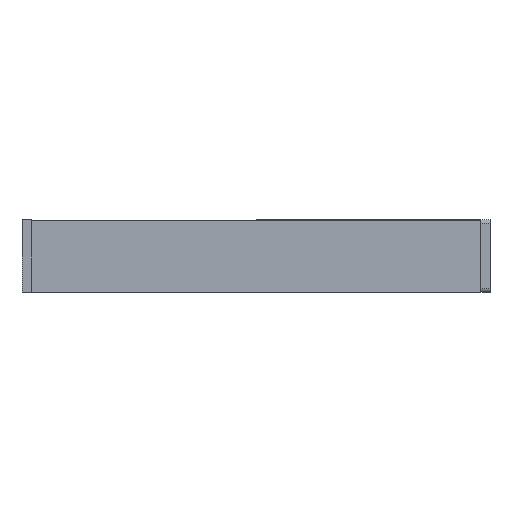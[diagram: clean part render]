
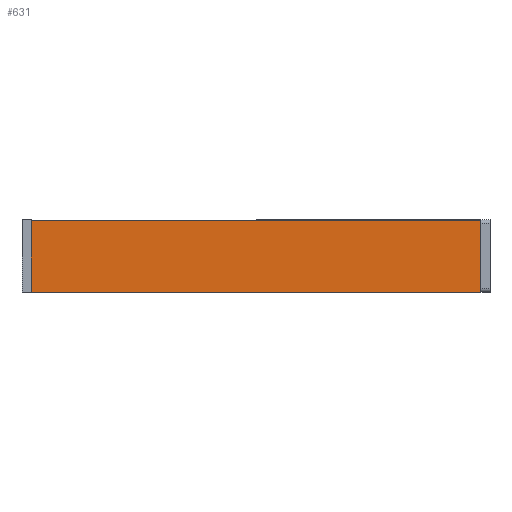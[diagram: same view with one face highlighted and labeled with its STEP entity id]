
A CAD part, front view. The second image highlights one B-rep face of the part: STEP entity #631.
In plain terms, the highlighted planar face has unit normal (0.766, -0.643, 0) as drawn and (1, 0, 0) by its records, which use the part's own axes.
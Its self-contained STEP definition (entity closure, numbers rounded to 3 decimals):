
#7 = AXIS2_PLACEMENT_3D ( 'NONE', #495, #510, #413 ) ;
#8 = ORIENTED_EDGE ( 'NONE', *, *, #864, .T. ) ;
#167 = LINE ( 'NONE', #551, #655 ) ;
#186 = VERTEX_POINT ( 'NONE', #606 ) ;
#198 = VECTOR ( 'NONE', #564, 1000. ) ;
#236 = VECTOR ( 'NONE', #340, 1000. ) ;
#336 = VERTEX_POINT ( 'NONE', #422 ) ;
#340 = DIRECTION ( 'NONE',  ( 0., 0., -1. ) ) ;
#380 = EDGE_LOOP ( 'NONE', ( #732, #937, #1140, #8 ) ) ;
#381 = EDGE_CURVE ( 'NONE', #1110, #336, #167, .T. ) ;
#393 = LINE ( 'NONE', #763, #477 ) ;
#413 = DIRECTION ( 'NONE',  ( 0., 0., 1. ) ) ;
#422 = CARTESIAN_POINT ( 'NONE',  ( 60., 0., -40. ) ) ;
#477 = VECTOR ( 'NONE', #1255, 1000. ) ;
#495 = CARTESIAN_POINT ( 'NONE',  ( 60., 700., 0. ) ) ;
#510 = DIRECTION ( 'NONE',  ( -1., 0., 0. ) ) ;
#529 = EDGE_CURVE ( 'NONE', #547, #1110, #718, .T. ) ;
#547 = VERTEX_POINT ( 'NONE', #556 ) ;
#549 = CARTESIAN_POINT ( 'NONE',  ( 60., 388.931, 0. ) ) ;
#551 = CARTESIAN_POINT ( 'NONE',  ( 60., 700., -40. ) ) ;
#556 = CARTESIAN_POINT ( 'NONE',  ( 60., 388.931, 0. ) ) ;
#564 = DIRECTION ( 'NONE',  ( 0., -1., 0. ) ) ;
#606 = CARTESIAN_POINT ( 'NONE',  ( 60., 0., 0. ) ) ;
#631 = ADVANCED_FACE ( 'NONE', ( #1281 ), #1188, .F. ) ;
#653 = CARTESIAN_POINT ( 'NONE',  ( 60., 700., 0. ) ) ;
#655 = VECTOR ( 'NONE', #865, 1000. ) ;
#718 = LINE ( 'NONE', #549, #236 ) ;
#732 = ORIENTED_EDGE ( 'NONE', *, *, #381, .F. ) ;
#756 = LINE ( 'NONE', #653, #198 ) ;
#763 = CARTESIAN_POINT ( 'NONE',  ( 60., 0., 0. ) ) ;
#864 = EDGE_CURVE ( 'NONE', #186, #336, #393, .T. ) ;
#865 = DIRECTION ( 'NONE',  ( 0., -1., 0. ) ) ;
#871 = EDGE_CURVE ( 'NONE', #547, #186, #756, .T. ) ;
#937 = ORIENTED_EDGE ( 'NONE', *, *, #529, .F. ) ;
#1110 = VERTEX_POINT ( 'NONE', #1253 ) ;
#1140 = ORIENTED_EDGE ( 'NONE', *, *, #871, .T. ) ;
#1188 = PLANE ( 'NONE',  #7 ) ;
#1253 = CARTESIAN_POINT ( 'NONE',  ( 60., 388.931, -40. ) ) ;
#1255 = DIRECTION ( 'NONE',  ( 0., 0., -1. ) ) ;
#1281 = FACE_OUTER_BOUND ( 'NONE', #380, .T. ) ;
